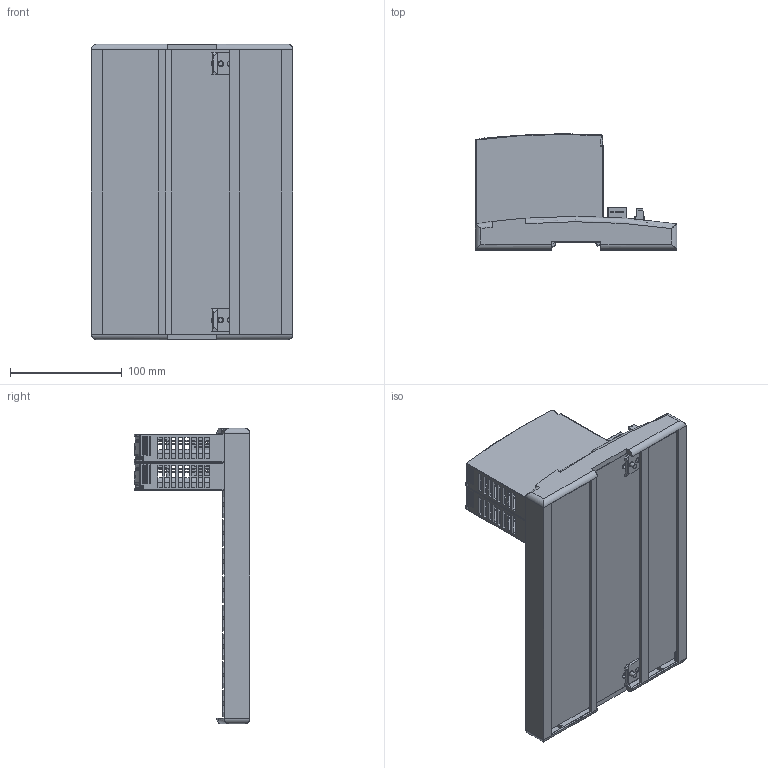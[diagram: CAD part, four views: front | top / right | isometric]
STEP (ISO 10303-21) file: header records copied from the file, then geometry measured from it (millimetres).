
FILE_DESCRIPTION((''),'2;1');
FILE_NAME('2550_8W_BLANK_IGESFILE','2012-04-10T',('chrisloe'),(''),'PRO/ENGINEER BY PARAMETRIC TECHNOLOGY CORPORATION, 2010180','PRO/ENGINEER BY PARAMETRIC TECHNOLOGY CORPORATION, 2010180','');
FILE_SCHEMA(('CONFIG_CONTROL_DESIGN'));
Products named in the file (1): 2550_8W_BLANK_IGESFILE
Bounding box: 180.4 x 103.39 x 264 mm (x, y, z)
Volume: 396391.2 mm3; surface area: 346929.4 mm2
Topology: 2 solids, 25 shells, 5415 faces, 15293 edges, 9771 vertices
Faces by surface type: plane 3716, cylinder 1213, cone 214, bspline 134, torus 92, sphere 46
Entity records: 183937 total; most frequent: CARTESIAN_POINT 45520, ORIENTED_EDGE 30474, DIRECTION 26704, EDGE_CURVE 15241, VECTOR 9838, LINE 9838, VERTEX_POINT 9769, AXIS2_PLACEMENT_3D 8433
